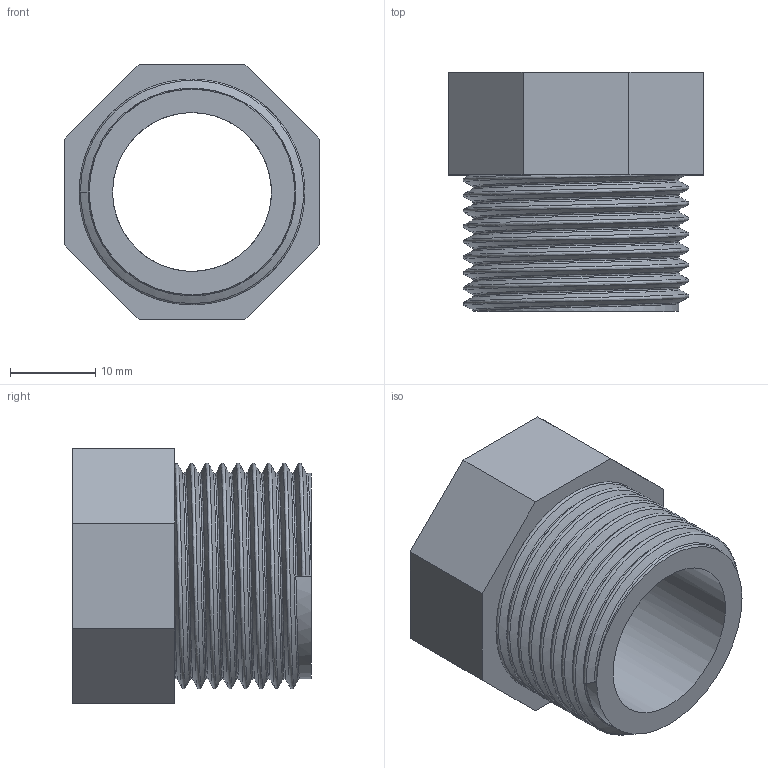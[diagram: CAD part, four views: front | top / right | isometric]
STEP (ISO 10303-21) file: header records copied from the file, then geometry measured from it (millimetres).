
FILE_DESCRIPTION(/* description */ ('PVC riduzione filettata BSP maschio-femmina'),/* implementation_level */ '2;1');
FILE_NAME(/* name */ 'C:\Users\POLYPIPE\Desktop\DATASET INVENTOR\LIBRERIA EFFAST\RACCORDI 3DxWEB\RER\3D_RERRCE\3D_RERRCE025B.stp',/* time_stamp */ '2018-01-19T16:57:56+01:00',/* author */ ('POLYPIPE'),/* organization */ ('Polypipe Italia s.r.l.'),/* preprocessor_version */ 'ST-DEVELOPER v16.1',/* originating_system */ 'Autodesk Inventor 2016',/* authorisation */ '');
FILE_SCHEMA (('CONFIG_CONTROL_DESIGN'));
Length unit declared in the file: millimetre
Products named in the file (1): 3D_RERRCE
Bounding box: 30 x 28 x 30 mm (x, y, z)
Volume: 8809.4 mm3; surface area: 6493.4 mm2
Topology: 1 solids, 1 shells, 27 faces, 67 edges, 43 vertices
Faces by surface type: plane 14, bspline 10, cylinder 3
Full cylindrical faces by diameter (mm): 18.631 x1, 24.117 x1
Entity records: 7165 total; most frequent: CARTESIAN_POINT 6571, ORIENTED_EDGE 130, DIRECTION 88, EDGE_CURVE 65, VERTEX_POINT 42, LINE 32, VECTOR 32, EDGE_LOOP 31
